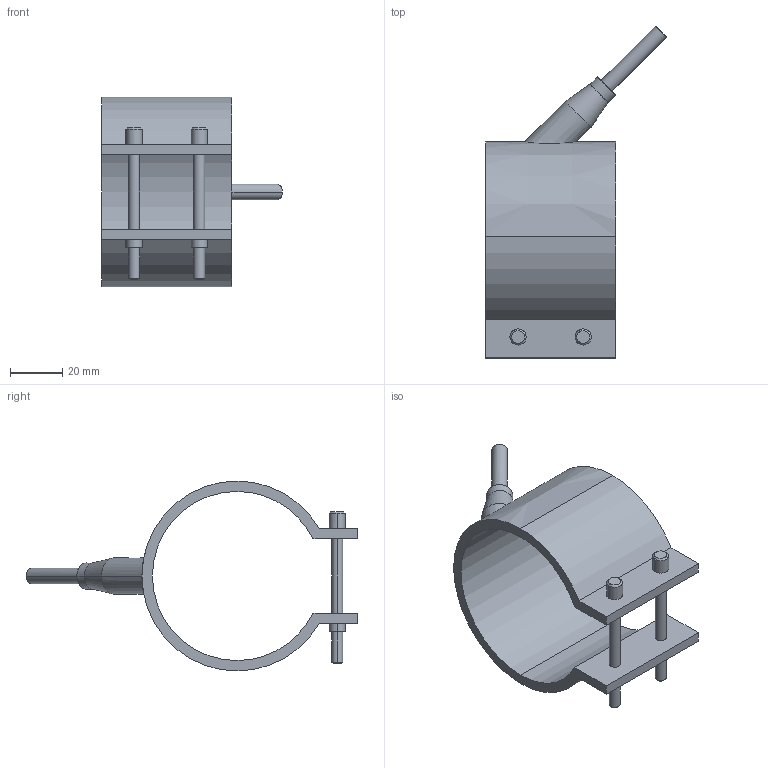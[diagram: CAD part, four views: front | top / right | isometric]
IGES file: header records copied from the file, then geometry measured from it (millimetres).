
Start section: START RECORD GO HERE.
Global section: file name: 29065050.igs; native system: DASSAULT SYSTEMES CATIA V5 R20 - www.3ds.com; preprocessor: CATIA Version 5 Release 20 ; author: Utente; organization: NB04-ASUS; date: 20210327.104640; units: millimetre
Bounding box: 69.55 x 127.55 x 73 mm (x, y, z)
Surface area: 26691.4 mm2 (no closed solid volume)
Topology: 0 solids, 0 shells, 54 faces, 252 edges, 252 vertices
Faces by surface type: revolution 38, plane 16
